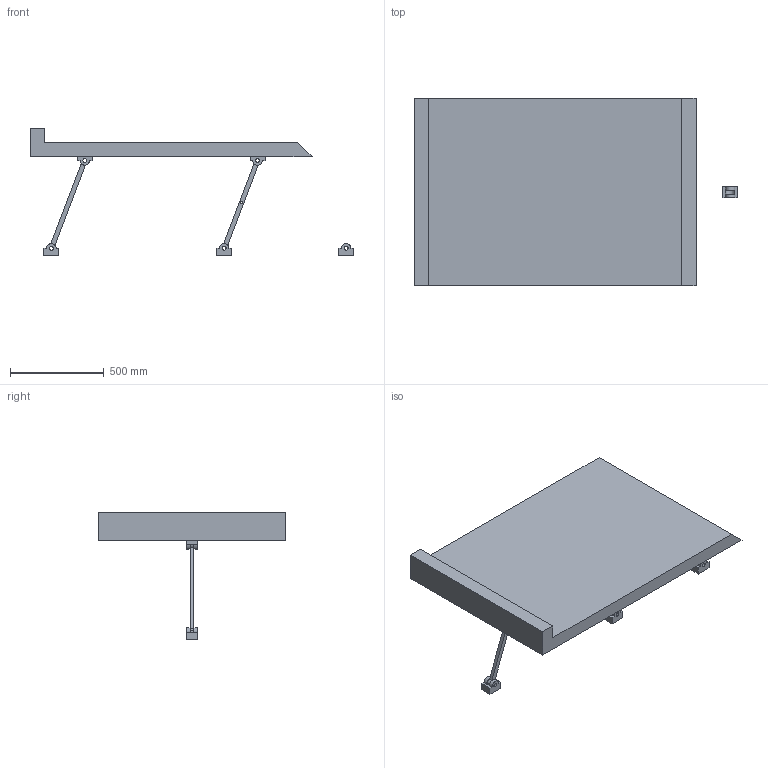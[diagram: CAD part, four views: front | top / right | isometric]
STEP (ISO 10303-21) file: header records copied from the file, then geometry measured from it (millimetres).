
FILE_DESCRIPTION (( 'STEP AP203' ), '1' );
FILE_NAME ('Exercise F.STEP', '2008-08-04T21:07:18', ( 'ALGOR' ), ( 'ALGOR Inc.' ), 'SwSTEP 2.0', 'SolidWorks 2008', '' );
FILE_SCHEMA (( 'CONFIG_CONTROL_DESIGN' ));
Length unit declared in the file: inch
Products named in the file (5): Exercise F; Base; connection; rod2; rod
Assembly tree (8 placements, depth 2):
  Exercise F
    rod
    rod2
    connection  x5
    Base
Bounding box: 1721.59 x 1000 x 679.68 mm (x, y, z)
Volume: 118511740.5 mm3; surface area: 3756968.3 mm2
Topology: 8 solids, 8 shells, 128 faces, 310 edges, 200 vertices
Faces by surface type: plane 71, cylinder 57
Entity records: 2597 total; most frequent: DIRECTION 366, CARTESIAN_POINT 337, ORIENTED_EDGE 316, EDGE_CURVE 158, AXIS2_PLACEMENT_3D 133, VERTEX_POINT 104, LINE 100, VECTOR 100
